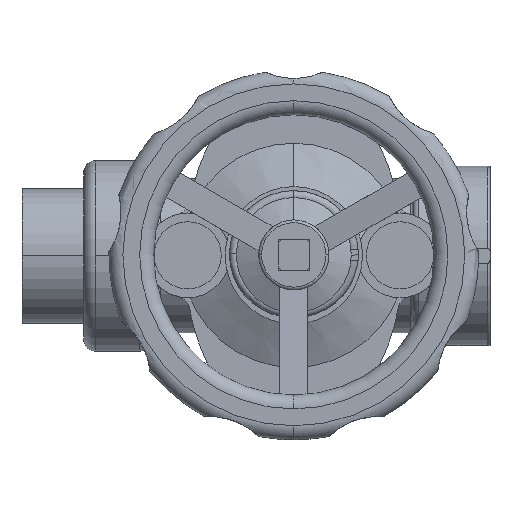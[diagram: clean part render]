
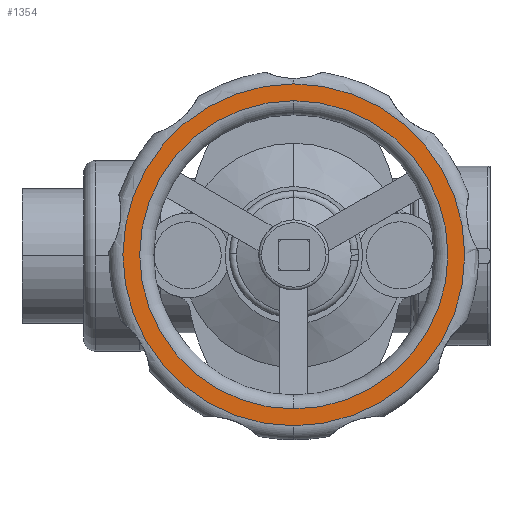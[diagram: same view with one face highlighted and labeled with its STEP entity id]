
A CAD part, top view. The second image highlights one B-rep face of the part: STEP entity #1354.
In plain terms, the highlighted planar face has unit normal (0, 0, 1).
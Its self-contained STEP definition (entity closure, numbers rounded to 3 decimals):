
#1354=ADVANCED_FACE('',(#2589,#2590),#2591,.T.);
#2589=FACE_OUTER_BOUND('',#3992,.T.);
#2590=FACE_BOUND('',#3993,.T.);
#2591=PLANE('',#3994);
#3992=EDGE_LOOP('',(#6612,#6613,#6614));
#3993=EDGE_LOOP('',(#6615,#6616,#6617));
#3994=AXIS2_PLACEMENT_3D('',#6618,#6619,#6620);
#6612=ORIENTED_EDGE('',*,*,#8798,.F.);
#6613=ORIENTED_EDGE('',*,*,#8799,.F.);
#6614=ORIENTED_EDGE('',*,*,#8453,.F.);
#6615=ORIENTED_EDGE('',*,*,#8712,.T.);
#6616=ORIENTED_EDGE('',*,*,#8659,.T.);
#6617=ORIENTED_EDGE('',*,*,#8713,.T.);
#6618=CARTESIAN_POINT('',(39.0,0.,205.0));
#6619=DIRECTION('',(0.,0.,1.0));
#6620=DIRECTION('',(1.0,0.,0.));
#8453=EDGE_CURVE('',#10228,#10230,#10231,.T.);
#8659=EDGE_CURVE('',#10517,#10521,#10523,.T.);
#8712=EDGE_CURVE('',#10591,#10517,#10592,.T.);
#8713=EDGE_CURVE('',#10521,#10591,#10593,.T.);
#8798=EDGE_CURVE('',#10695,#10228,#10696,.T.);
#8799=EDGE_CURVE('',#10230,#10695,#10697,.T.);
#10228=VERTEX_POINT('',#12606);
#10230=VERTEX_POINT('',#12608);
#10231=CIRCLE('',#12609,61.0);
#10517=VERTEX_POINT('',#13017);
#10521=VERTEX_POINT('',#13021);
#10523=CIRCLE('',#13023,55.0);
#10591=VERTEX_POINT('',#13111);
#10592=CIRCLE('',#13112,55.0);
#10593=CIRCLE('',#13113,55.0);
#10695=VERTEX_POINT('',#13233);
#10696=CIRCLE('',#13234,61.0);
#10697=CIRCLE('',#13235,61.0);
#12606=CARTESIAN_POINT('',(97.0,61.0,205.0));
#12608=CARTESIAN_POINT('',(97.0,-61.0,205.0));
#12609=AXIS2_PLACEMENT_3D('',#14711,#14712,#14713);
#13017=CARTESIAN_POINT('',(97.0,55.0,205.0));
#13021=CARTESIAN_POINT('',(97.0,-55.0,205.0));
#13023=AXIS2_PLACEMENT_3D('',#15004,#15005,#15006);
#13111=CARTESIAN_POINT('',(42.0,0.,205.0));
#13112=AXIS2_PLACEMENT_3D('',#15063,#15064,#15065);
#13113=AXIS2_PLACEMENT_3D('',#15066,#15067,#15068);
#13233=CARTESIAN_POINT('',(36.0,0.,205.0));
#13234=AXIS2_PLACEMENT_3D('',#15186,#15187,#15188);
#13235=AXIS2_PLACEMENT_3D('',#15189,#15190,#15191);
#14711=CARTESIAN_POINT('',(97.0,0.,205.0));
#14712=DIRECTION('',(0.,0.,-1.0));
#14713=DIRECTION('',(-1.0,0.,0.));
#15004=CARTESIAN_POINT('',(97.0,0.,205.0));
#15005=DIRECTION('',(0.,0.,-1.0));
#15006=DIRECTION('',(-1.0,0.,0.));
#15063=CARTESIAN_POINT('',(97.0,0.,205.0));
#15064=DIRECTION('',(0.,0.,-1.0));
#15065=DIRECTION('',(-1.0,0.,0.));
#15066=CARTESIAN_POINT('',(97.0,0.,205.0));
#15067=DIRECTION('',(0.,0.,-1.0));
#15068=DIRECTION('',(-1.0,0.,0.));
#15186=CARTESIAN_POINT('',(97.0,0.,205.0));
#15187=DIRECTION('',(0.,0.,-1.0));
#15188=DIRECTION('',(-1.0,0.,0.));
#15189=CARTESIAN_POINT('',(97.0,0.,205.0));
#15190=DIRECTION('',(0.,0.,-1.0));
#15191=DIRECTION('',(-1.0,0.,0.));
